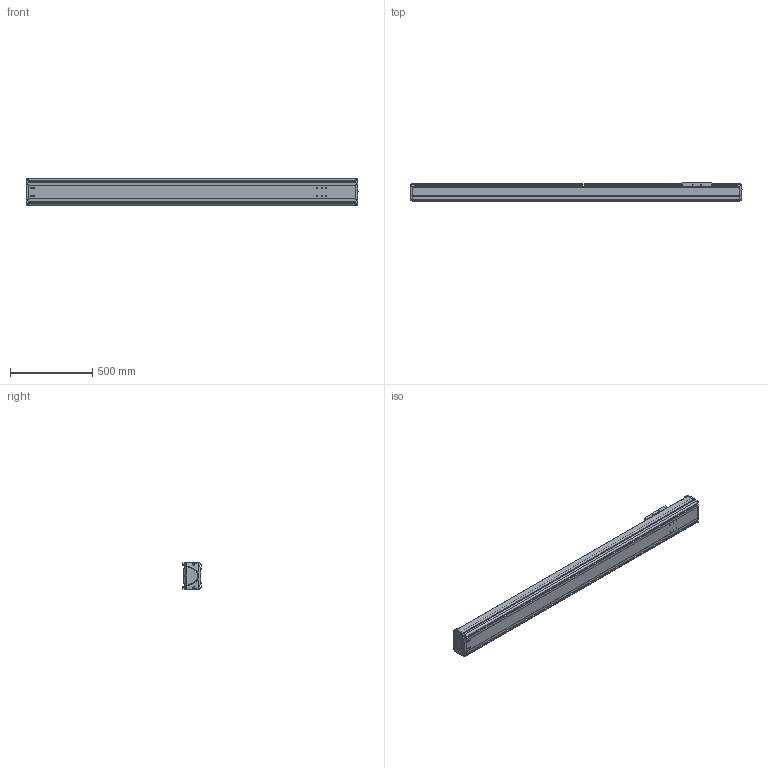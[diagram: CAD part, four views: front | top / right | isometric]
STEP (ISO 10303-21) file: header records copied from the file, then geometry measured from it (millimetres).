
FILE_DESCRIPTION((''),'2;1');
FILE_NAME('BE50G-ST-M_B-G0_IGS_PRT','2017-06-18T',(' '),(''),'PRO/ENGINEER BY PARAMETRIC TECHNOLOGY CORPORATION, 2015030','PRO/ENGINEER BY PARAMETRIC TECHNOLOGY CORPORATION, 2015030','');
FILE_SCHEMA(('CONFIG_CONTROL_DESIGN'));
Length unit declared in the file: millimetre
Products named in the file (1): BE50G-ST-M_B-G0_IGS_PRT
Bounding box: 2014.98 x 110 x 160 mm (x, y, z)
Volume: 8250024.1 mm3; surface area: 2998737.5 mm2
Topology: 3 solids, 114 shells, 1768 faces, 4754 edges, 3073 vertices
Faces by surface type: cylinder 830, plane 617, bspline 102, cone 92, torus 87, sphere 40
Entity records: 61540 total; most frequent: CARTESIAN_POINT 17827, ORIENTED_EDGE 9006, DIRECTION 8884, EDGE_CURVE 4726, AXIS2_PLACEMENT_3D 3356, VERTEX_POINT 3065, VECTOR 2172, LINE 2172
